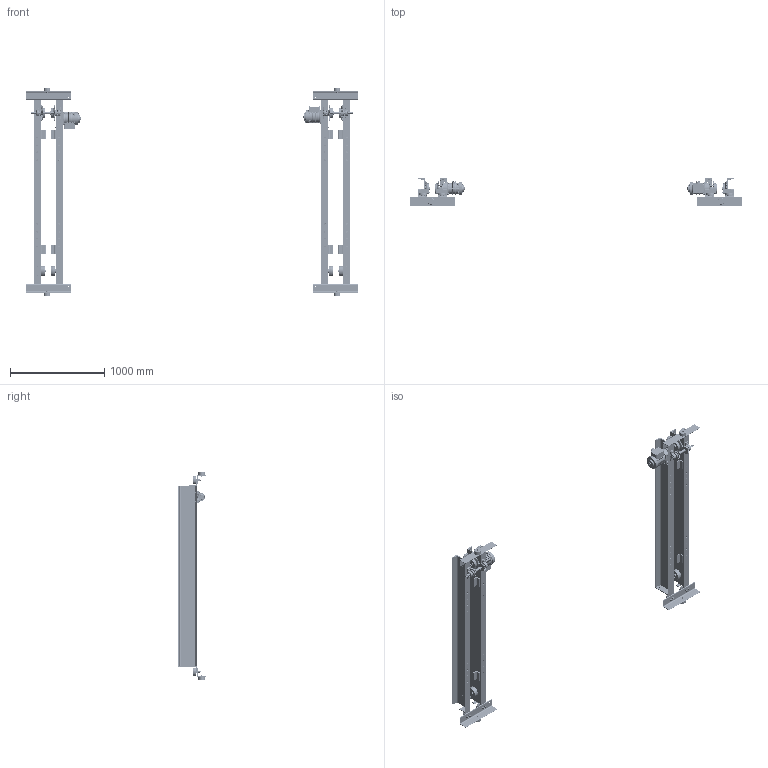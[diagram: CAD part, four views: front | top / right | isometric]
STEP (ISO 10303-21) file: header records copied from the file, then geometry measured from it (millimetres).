
FILE_DESCRIPTION (( 'STEP AP214' ), '1' );
FILE_NAME ('MUMS-3-0235.STEP', '2026-08-17T13:40:12', ( '' ), ( '' ), 'SwSTEP 2.0', 'SolidWorks 2026', '' );
FILE_SCHEMA (( 'AUTOMOTIVE_DESIGN' ));
Length unit declared in the file: inch
Products named in the file (79): 6232803_6232803; 9093427_9093427; 6232301; 6232401; G1JE025S9301; N6QL5101101; 62376_62376-1; 9047130_9047130; 6257004; N6Q0310E9108; N6QL510E9101_Domestic; 9043411; 6232404; G1JE025S9610; G1JE025S9604; 6234702X_6234702B; 9012707_9012707; 6233203; 62379_62379-1; MS555010_MS555010; 9012515_9012515; 62375_62375-1; 9012711_9012711; 62588; G1JE025S9603; MC08-018.7_75; G1JE025S9701; G1JE025S9609; G1JE025S9303; 9000605; 62378_62378-1; 9012519_9012519; 9012514_9012514; 9093433_9093433; 9091250_9091250; 6234701X_6234701B; 9093146_9093146; 9093101_9093101; G1JE025S9503; 9093329_9093329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
Assembly tree (355 placements, depth 4):
  MUMS-3-0235
    62378_62378-1  x2
      62375_62375-1
        MC08-018.7_75
        6232803_6232803
        6232803_6232803
      6232301
      6232304
      5204405_5204405
      6233203
    62377_62377-1
      62374_62374-1
        MC08-018.7_75
        6232803_6232803
        6232803_6232803
      6232301  x2
      6232304  x2
      5204405_5204405  x2
      6233203  x2
      6257004
    62379_62379-1
      62376_62376-1
        MC08-018.7_75
        6232803_6232803
        6232803_6232803
      6232301  x2
      6232304  x2
      5204405_5204405  x2
      6233203  x2
      6257004
    6234701X_6234701B  x2
    6234702X_6234702B  x2
    N6QL210207  x4
    9012514_9012514  x12
    9093101_9093101  x4
    9093424_9093424  x8
    N6Q03101108  x8
      N6Q0310E9108
      9047252_9047252
      9000605
    6232404  x8
    9047125_B27.7M - 3AM1-23  x8
    9012515_9012515  x16
    9093433_9093433  x32
    9093146_9093146  x8
    6234501  x4
      6232601_6232601
      9000606
      9047262_B27.7M - 3BM1-62
    6232401  x8
    9047130_9047130  x8
    N6QL5101101  x4
      N6QL510E9101_Domestic
      9000606
      9047262_B27.7M - 3BM1-62
    N6QL210116  x4
    9012712_9012712  x8
    9043411  x8
    9093354_9093354  x8
    9093427_9093427  x8
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Bounding box: 3519.98 x 292.1 x 2211.61 mm (x, y, z)
Volume: 42720991.3 mm3; surface area: 9059728.3 mm2
Topology: 374 solids, 470 shells, 24232 faces, 62374 edges, 40042 vertices
Faces by surface type: plane 11382, cylinder 5744, bspline 3442, cone 2610, torus 868, sphere 186
Entity records: 209628 total; most frequent: CARTESIAN_POINT 88785, ORIENTED_EDGE 24966, DIRECTION 22705, EDGE_CURVE 12487, AXIS2_PLACEMENT_3D 8867, VERTEX_POINT 7939, EDGE_LOOP 5380, VECTOR 4971
